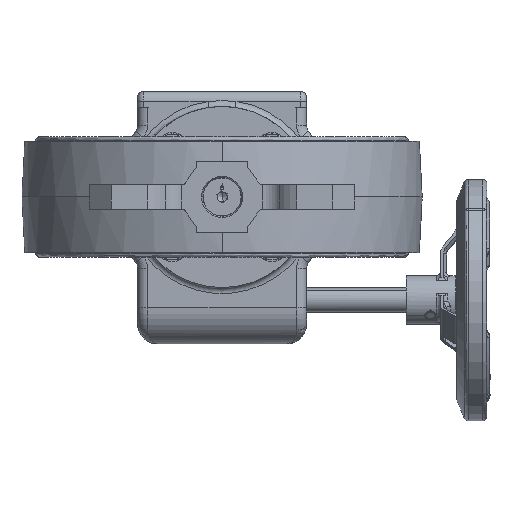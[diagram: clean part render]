
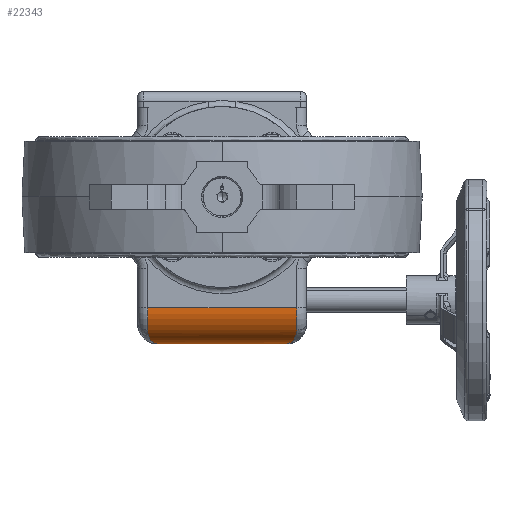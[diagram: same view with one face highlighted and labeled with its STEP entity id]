
A CAD part, front view. The second image highlights one B-rep face of the part: STEP entity #22343.
In plain terms, the highlighted cylindrical face has radius 18 mm (diameter 36 mm), a partial arc.
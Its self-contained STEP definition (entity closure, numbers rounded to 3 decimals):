
#3363 = CARTESIAN_POINT ( 'NONE',  ( 37., 213.812, -66.077 ) ) ;
#3378 = CARTESIAN_POINT ( 'NONE',  ( -37., 213.812, -66.077 ) ) ;
#5286 = CARTESIAN_POINT ( 'NONE',  ( -36.572, 216.547, -68.89 ) ) ;
#6530 = VERTEX_POINT ( 'NONE', #3363 ) ;
#7606 = CARTESIAN_POINT ( 'NONE',  ( 36.95, 214.732, -67.185 ) ) ;
#8009 = CARTESIAN_POINT ( 'NONE',  ( 36.819, 215.486, -67.943 ) ) ;
#8274 = AXIS2_PLACEMENT_3D ( 'NONE', #61037, #61854, #71376 ) ;
#9034 = CARTESIAN_POINT ( 'NONE',  ( -32., 228., -73. ) ) ;
#10383 = CARTESIAN_POINT ( 'NONE',  ( 37., 210., -55. ) ) ;
#13192 = CARTESIAN_POINT ( 'NONE',  ( -33.457, 224.728, -72.712 ) ) ;
#14966 = AXIS2_PLACEMENT_3D ( 'NONE', #52320, #78917, #61018 ) ;
#18608 = ORIENTED_EDGE ( 'NONE', *, *, #54477, .F. ) ;
#21944 = CARTESIAN_POINT ( 'NONE',  ( -36.765, 215.744, -68.188 ) ) ;
#22343 = ADVANCED_FACE ( 'NONE', ( #81879 ), #54851, .T. ) ;
#26485 = EDGE_CURVE ( 'NONE', #115428, #74429, #47390, .T. ) ;
#31828 = CARTESIAN_POINT ( 'NONE',  ( -36.819, 215.486, -67.943 ) ) ;
#33223 = VECTOR ( 'NONE', #93299, 1000. ) ;
#34932 = CARTESIAN_POINT ( 'NONE',  ( 37., 213.812, -66.077 ) ) ;
#35319 = CARTESIAN_POINT ( 'NONE',  ( 33.172, 225.374, -72.82 ) ) ;
#38258 = CIRCLE ( 'NONE', #101116, 18. ) ;
#39911 = CARTESIAN_POINT ( 'NONE',  ( 32., 228., -73. ) ) ;
#40945 = CARTESIAN_POINT ( 'NONE',  ( -36.642, 216.275, -68.662 ) ) ;
#43151 = LINE ( 'NONE', #92527, #33223 ) ;
#43311 = CARTESIAN_POINT ( 'NONE',  ( 32.295, 227.342, -73. ) ) ;
#43701 = CARTESIAN_POINT ( 'NONE',  ( 35.537, 219.706, -70.99 ) ) ;
#46684 = LINE ( 'NONE', #79412, #80745 ) ;
#47390 = B_SPLINE_CURVE_WITH_KNOTS ( 'NONE', 3,
 ( #48887, #104159, #68329, #31828, #21944, #40945, #5286, #77418, #49666, #113689, #68732, #67552, #67160, #13192, #95385, #86625, #58790, #104555, #95786, #87003 ),
 .UNSPECIFIED., .F., .F.,
 ( 4, 2, 2, 2, 2, 2, 2, 2, 2, 4 ),
 ( 0., 0.002, 0.003, 0.004, 0.006, 0.009, 0.013, 0.015, 0.016, 0.017 ),
 .UNSPECIFIED. ) ;
#48015 = ORIENTED_EDGE ( 'NONE', *, *, #90425, .T. ) ;
#48887 = CARTESIAN_POINT ( 'NONE',  ( -37., 213.812, -66.077 ) ) ;
#49666 = CARTESIAN_POINT ( 'NONE',  ( -36.162, 217.939, -69.941 ) ) ;
#52005 = CARTESIAN_POINT ( 'NONE',  ( 36.765, 215.744, -68.188 ) ) ;
#52320 = CARTESIAN_POINT ( 'NONE',  ( 37., 228., -55. ) ) ;
#54477 = EDGE_CURVE ( 'NONE', #102615, #74429, #43151, .T. ) ;
#54851 = CYLINDRICAL_SURFACE ( 'NONE', #8274, 18. ) ;
#58790 = CARTESIAN_POINT ( 'NONE',  ( -32.589, 226.684, -72.955 ) ) ;
#59571 = ORIENTED_EDGE ( 'NONE', *, *, #70591, .T. ) ;
#59738 = B_SPLINE_CURVE_WITH_KNOTS ( 'NONE', 3,
 ( #61908, #43311, #115230, #35319, #98139, #62296, #89360, #43701, #60715, #88982, #61509, #116412, #98907, #52005, #8009, #7606, #71431, #34932 ),
 .UNSPECIFIED., .F., .F.,
 ( 4, 2, 2, 2, 2, 2, 2, 2, 4 ),
 ( 0., 0.002, 0.004, 0.009, 0.011, 0.013, 0.014, 0.015, 0.017 ),
 .UNSPECIFIED. ) ;
#60715 = CARTESIAN_POINT ( 'NONE',  ( 35.759, 219.106, -70.664 ) ) ;
#61018 = DIRECTION ( 'NONE',  ( 0., 0., 1. ) ) ;
#61037 = CARTESIAN_POINT ( 'NONE',  ( -32., 228., -55. ) ) ;
#61401 = EDGE_LOOP ( 'NONE', ( #18608, #101930, #48015, #95306, #59571, #115021 ) ) ;
#61509 = CARTESIAN_POINT ( 'NONE',  ( 36.342, 217.372, -69.544 ) ) ;
#61854 = DIRECTION ( 'NONE',  ( -1., 0., 0. ) ) ;
#61908 = CARTESIAN_POINT ( 'NONE',  ( 32., 228., -73. ) ) ;
#62296 = CARTESIAN_POINT ( 'NONE',  ( 34.292, 222.808, -72.285 ) ) ;
#63643 = DIRECTION ( 'NONE',  ( 0., 0., -1. ) ) ;
#67160 = CARTESIAN_POINT ( 'NONE',  ( -34.292, 222.808, -72.285 ) ) ;
#67552 = CARTESIAN_POINT ( 'NONE',  ( -34.82, 221.554, -71.861 ) ) ;
#68329 = CARTESIAN_POINT ( 'NONE',  ( -36.95, 214.732, -67.185 ) ) ;
#68732 = CARTESIAN_POINT ( 'NONE',  ( -35.537, 219.707, -70.99 ) ) ;
#70591 = EDGE_CURVE ( 'NONE', #113728, #115428, #38258, .T. ) ;
#71376 = DIRECTION ( 'NONE',  ( 0., 0., 1. ) ) ;
#71431 = CARTESIAN_POINT ( 'NONE',  ( 37., 214.258, -66.648 ) ) ;
#74429 = VERTEX_POINT ( 'NONE', #9034 ) ;
#76413 = EDGE_CURVE ( 'NONE', #102615, #6530, #59738, .T. ) ;
#77418 = CARTESIAN_POINT ( 'NONE',  ( -36.342, 217.372, -69.544 ) ) ;
#78917 = DIRECTION ( 'NONE',  ( -1., 0., 0. ) ) ;
#79412 = CARTESIAN_POINT ( 'NONE',  ( -32., 210., -55. ) ) ;
#80745 = VECTOR ( 'NONE', #97391, 1000. ) ;
#81106 = DIRECTION ( 'NONE',  ( 1., 0., 0. ) ) ;
#81513 = CARTESIAN_POINT ( 'NONE',  ( -37., 228., -55. ) ) ;
#81879 = FACE_OUTER_BOUND ( 'NONE', #61401, .T. ) ;
#86625 = CARTESIAN_POINT ( 'NONE',  ( -32.735, 226.356, -72.928 ) ) ;
#87003 = CARTESIAN_POINT ( 'NONE',  ( -32., 228., -73. ) ) ;
#88453 = VERTEX_POINT ( 'NONE', #10383 ) ;
#88982 = CARTESIAN_POINT ( 'NONE',  ( 36.162, 217.939, -69.941 ) ) ;
#89360 = CARTESIAN_POINT ( 'NONE',  ( 34.82, 221.554, -71.861 ) ) ;
#90425 = EDGE_CURVE ( 'NONE', #6530, #88453, #110257, .T. ) ;
#92527 = CARTESIAN_POINT ( 'NONE',  ( -32., 228., -73. ) ) ;
#93299 = DIRECTION ( 'NONE',  ( -1., 0., 0. ) ) ;
#94292 = CARTESIAN_POINT ( 'NONE',  ( -37., 210., -55. ) ) ;
#95306 = ORIENTED_EDGE ( 'NONE', *, *, #100041, .F. ) ;
#95385 = CARTESIAN_POINT ( 'NONE',  ( -33.172, 225.374, -72.82 ) ) ;
#95786 = CARTESIAN_POINT ( 'NONE',  ( -32.147, 227.673, -73. ) ) ;
#97391 = DIRECTION ( 'NONE',  ( 1., 0., 0. ) ) ;
#98139 = CARTESIAN_POINT ( 'NONE',  ( 33.457, 224.728, -72.712 ) ) ;
#98907 = CARTESIAN_POINT ( 'NONE',  ( 36.642, 216.275, -68.662 ) ) ;
#100041 = EDGE_CURVE ( 'NONE', #113728, #88453, #46684, .T. ) ;
#101116 = AXIS2_PLACEMENT_3D ( 'NONE', #81513, #81106, #63643 ) ;
#101930 = ORIENTED_EDGE ( 'NONE', *, *, #76413, .T. ) ;
#102615 = VERTEX_POINT ( 'NONE', #39911 ) ;
#104159 = CARTESIAN_POINT ( 'NONE',  ( -37., 214.258, -66.648 ) ) ;
#104555 = CARTESIAN_POINT ( 'NONE',  ( -32.295, 227.342, -72.991 ) ) ;
#110257 = CIRCLE ( 'NONE', #14966, 18. ) ;
#113689 = CARTESIAN_POINT ( 'NONE',  ( -35.759, 219.106, -70.664 ) ) ;
#113728 = VERTEX_POINT ( 'NONE', #94292 ) ;
#115021 = ORIENTED_EDGE ( 'NONE', *, *, #26485, .T. ) ;
#115230 = CARTESIAN_POINT ( 'NONE',  ( 32.59, 226.683, -72.964 ) ) ;
#115428 = VERTEX_POINT ( 'NONE', #3378 ) ;
#116412 = CARTESIAN_POINT ( 'NONE',  ( 36.572, 216.547, -68.89 ) ) ;
